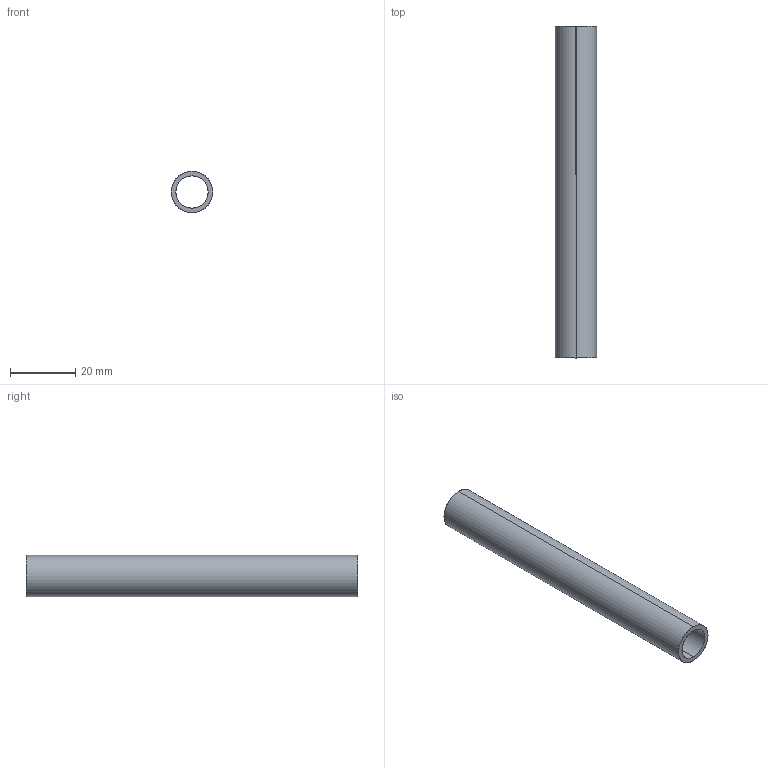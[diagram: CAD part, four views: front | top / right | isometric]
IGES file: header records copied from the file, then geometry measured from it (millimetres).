
Start section: SolidWorks IGES file using analytic representation for surfaces
Global section: file name: C:\Users\Bud\Documents\GitHub\telemetry\Hardware\Masthead hardware\IGES\wind speed shaft.IGS; native system: SolidWorks 2011; preprocessor: SolidWorks 2011; author: Bud; date: 131225.211858; units: inch
Bounding box: 12.7 x 101.6 x 12.7 mm (x, y, z)
Surface area: 7296.4 mm2 (no closed solid volume)
Topology: 0 solids, 0 shells, 6 faces, 144 edges, 144 vertices
Faces by surface type: revolution 4, bspline 2
